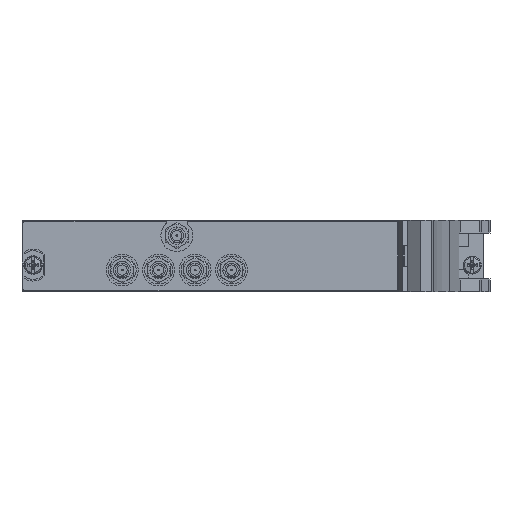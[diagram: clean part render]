
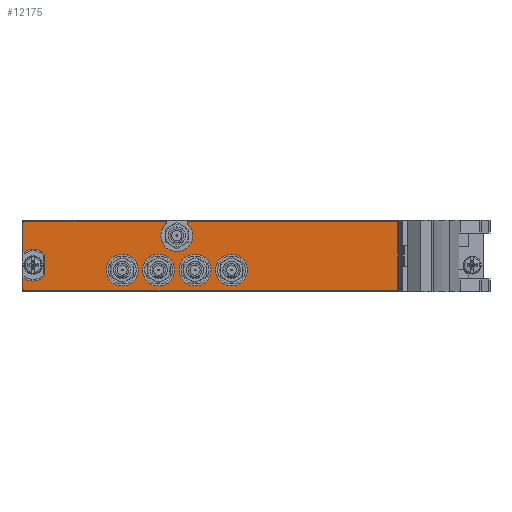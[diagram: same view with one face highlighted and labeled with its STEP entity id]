
A CAD part, left-side view. The second image highlights one B-rep face of the part: STEP entity #12175.
In plain terms, the highlighted planar face has unit normal (-1, 0, 0).
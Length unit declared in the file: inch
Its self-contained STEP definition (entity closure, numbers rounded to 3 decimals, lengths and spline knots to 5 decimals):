
#268=CARTESIAN_POINT('',(-0.215,-1.27129,0.665));
#269=DIRECTION('',(-1.,0.,0.));
#270=DIRECTION('',(0.,0.,1.));
#271=AXIS2_PLACEMENT_3D('',#268,#269,#270);
#273=DIRECTION('',(0.,1.,0.));
#274=VECTOR('',#273,2.26426);
#275=CARTESIAN_POINT('',(-0.215,-3.53555,0.685));
#276=LINE('',#275,#274);
#277=CARTESIAN_POINT('',(-0.215,-3.53555,0.665));
#278=DIRECTION('',(-1.,0.,0.));
#279=DIRECTION('',(0.,-1.,0.));
#280=AXIS2_PLACEMENT_3D('',#277,#278,#279);
#282=DIRECTION('',(0.,0.,1.));
#283=VECTOR('',#282,0.728);
#284=CARTESIAN_POINT('',(-0.215,-3.55555,-0.063));
#285=LINE('',#284,#283);
#286=CARTESIAN_POINT('',(-0.215,-3.53555,-0.063));
#287=DIRECTION('',(-1.,0.,0.));
#288=DIRECTION('',(0.,0.,-1.));
#289=AXIS2_PLACEMENT_3D('',#286,#287,#288);
#291=DIRECTION('',(0.,-1.,0.));
#292=VECTOR('',#291,4.07);
#293=CARTESIAN_POINT('',(-0.215,0.53445,-0.083));
#294=LINE('',#293,#292);
#295=CARTESIAN_POINT('',(-0.215,0.53445,-0.063));
#296=DIRECTION('',(-1.,0.,0.));
#297=DIRECTION('',(0.,1.,0.));
#298=AXIS2_PLACEMENT_3D('',#295,#296,#297);
#300=DIRECTION('',(0.,0.,-1.));
#301=VECTOR('',#300,0.12953);
#302=CARTESIAN_POINT('',(-0.215,0.55445,0.06653));
#303=LINE('',#302,#301);
#304=CARTESIAN_POINT('',(-0.215,0.44245,0.201));
#305=DIRECTION('',(1.,0.,0.));
#306=DIRECTION('',(0.,-0.737,-0.676));
#307=AXIS2_PLACEMENT_3D('',#304,#305,#306);
#309=DIRECTION('',(0.,0.,-1.));
#310=VECTOR('',#309,0.23651);
#311=CARTESIAN_POINT('',(-0.215,0.31345,0.31925));
#312=LINE('',#311,#310);
#313=CARTESIAN_POINT('',(-0.215,0.44245,0.201));
#314=DIRECTION('',(1.,0.,0.));
#315=DIRECTION('',(0.,0.64,0.768));
#316=AXIS2_PLACEMENT_3D('',#313,#314,#315);
#318=DIRECTION('',(0.,0.,-1.));
#319=VECTOR('',#318,0.32953);
#320=CARTESIAN_POINT('',(-0.215,0.55445,0.665));
#321=LINE('',#320,#319);
#322=CARTESIAN_POINT('',(-0.215,0.53445,0.665));
#323=DIRECTION('',(-1.,0.,0.));
#324=DIRECTION('',(0.,0.,1.));
#325=AXIS2_PLACEMENT_3D('',#322,#323,#324);
#327=DIRECTION('',(0.,1.,0.));
#328=VECTOR('',#327,1.53426);
#329=CARTESIAN_POINT('',(-0.215,-0.99981,0.685));
#330=LINE('',#329,#328);
#331=CARTESIAN_POINT('',(-0.215,-0.99981,0.665));
#332=DIRECTION('',(-1.,0.,0.));
#333=DIRECTION('',(0.,-0.696,-0.718));
#334=AXIS2_PLACEMENT_3D('',#331,#332,#333);
#336=CARTESIAN_POINT('',(-0.215,-0.53555,0.147));
#337=DIRECTION('',(-1.,0.,0.));
#338=DIRECTION('',(0.,0.,1.));
#339=AXIS2_PLACEMENT_3D('',#336,#337,#338);
#341=CARTESIAN_POINT('',(-0.215,-0.53555,0.147));
#342=DIRECTION('',(-1.,0.,0.));
#343=DIRECTION('',(0.,0.,-1.));
#344=AXIS2_PLACEMENT_3D('',#341,#342,#343);
#346=CARTESIAN_POINT('',(-0.215,-0.93555,0.147));
#347=DIRECTION('',(-1.,0.,0.));
#348=DIRECTION('',(0.,0.,1.));
#349=AXIS2_PLACEMENT_3D('',#346,#347,#348);
#351=CARTESIAN_POINT('',(-0.215,-0.93555,0.147));
#352=DIRECTION('',(-1.,0.,0.));
#353=DIRECTION('',(0.,0.,-1.));
#354=AXIS2_PLACEMENT_3D('',#351,#352,#353);
#356=CARTESIAN_POINT('',(-0.215,-1.33555,0.147));
#357=DIRECTION('',(-1.,0.,0.));
#358=DIRECTION('',(0.,0.,1.));
#359=AXIS2_PLACEMENT_3D('',#356,#357,#358);
#361=CARTESIAN_POINT('',(-0.215,-1.33555,0.147));
#362=DIRECTION('',(-1.,0.,0.));
#363=DIRECTION('',(0.,0.,-1.));
#364=AXIS2_PLACEMENT_3D('',#361,#362,#363);
#366=CARTESIAN_POINT('',(-0.215,-1.73555,0.147));
#367=DIRECTION('',(-1.,0.,0.));
#368=DIRECTION('',(0.,0.,1.));
#369=AXIS2_PLACEMENT_3D('',#366,#367,#368);
#371=CARTESIAN_POINT('',(-0.215,-1.73555,0.147));
#372=DIRECTION('',(-1.,0.,0.));
#373=DIRECTION('',(0.,0.,-1.));
#374=AXIS2_PLACEMENT_3D('',#371,#372,#373);
#4652=CARTESIAN_POINT('',(-0.215,-1.13555,0.525));
#4653=DIRECTION('',(1.,0.,0.));
#4654=DIRECTION('',(0.,-0.696,0.718));
#4655=AXIS2_PLACEMENT_3D('',#4652,#4653,#4654);
#10258=CARTESIAN_POINT('',(-0.215,0.53445,0.685));
#10259=CARTESIAN_POINT('',(-0.215,0.55445,0.665));
#10260=VERTEX_POINT('',#10258);
#10261=VERTEX_POINT('',#10259);
#10262=CARTESIAN_POINT('',(-0.215,0.55445,0.33547));
#10263=VERTEX_POINT('',#10262);
#10264=CARTESIAN_POINT('',(-0.215,0.31345,0.31925));
#10265=VERTEX_POINT('',#10264);
#10266=CARTESIAN_POINT('',(-0.215,0.31345,0.08275));
#10267=VERTEX_POINT('',#10266);
#10268=CARTESIAN_POINT('',(-0.215,0.55445,0.06653));
#10269=VERTEX_POINT('',#10268);
#10270=CARTESIAN_POINT('',(-0.215,0.55445,-0.063));
#10271=VERTEX_POINT('',#10270);
#10272=CARTESIAN_POINT('',(-0.215,0.53445,-0.083));
#10273=VERTEX_POINT('',#10272);
#10274=CARTESIAN_POINT('',(-0.215,-3.53555,-0.083));
#10275=VERTEX_POINT('',#10274);
#10276=CARTESIAN_POINT('',(-0.215,-3.55555,-0.063));
#10277=VERTEX_POINT('',#10276);
#10278=CARTESIAN_POINT('',(-0.215,-3.55555,0.665));
#10279=VERTEX_POINT('',#10278);
#10280=CARTESIAN_POINT('',(-0.215,-3.53555,0.685));
#10281=VERTEX_POINT('',#10280);
#10282=CARTESIAN_POINT('',(-0.215,-0.53555,0.322));
#10283=CARTESIAN_POINT('',(-0.215,-0.53555,-0.028));
#10284=VERTEX_POINT('',#10282);
#10285=VERTEX_POINT('',#10283);
#10286=CARTESIAN_POINT('',(-0.215,-0.93555,0.322));
#10287=CARTESIAN_POINT('',(-0.215,-0.93555,-0.028));
#10288=VERTEX_POINT('',#10286);
#10289=VERTEX_POINT('',#10287);
#10290=CARTESIAN_POINT('',(-0.215,-1.33555,0.322));
#10291=CARTESIAN_POINT('',(-0.215,-1.33555,-0.028));
#10292=VERTEX_POINT('',#10290);
#10293=VERTEX_POINT('',#10291);
#10294=CARTESIAN_POINT('',(-0.215,-1.73555,0.322));
#10295=CARTESIAN_POINT('',(-0.215,-1.73555,-0.028));
#10296=VERTEX_POINT('',#10294);
#10297=VERTEX_POINT('',#10295);
#10298=CARTESIAN_POINT('',(-0.215,-1.27129,0.685));
#10299=CARTESIAN_POINT('',(-0.215,-1.25737,0.65064));
#10300=VERTEX_POINT('',#10298);
#10301=VERTEX_POINT('',#10299);
#10302=CARTESIAN_POINT('',(-0.215,-1.01373,0.65064));
#10303=CARTESIAN_POINT('',(-0.215,-0.99981,0.685));
#10304=VERTEX_POINT('',#10302);
#10305=VERTEX_POINT('',#10303);
#12114=CARTESIAN_POINT('',(-0.215,0.44245,0.201));
#12115=DIRECTION('',(-1.,0.,0.));
#12116=DIRECTION('',(0.,0.,1.));
#12117=AXIS2_PLACEMENT_3D('',#12114,#12115,#12116);
#12118=PLANE('',#12117);
#12120=ORIENTED_EDGE('',*,*,#12119,.F.);
#12122=ORIENTED_EDGE('',*,*,#12121,.F.);
#12124=ORIENTED_EDGE('',*,*,#12123,.F.);
#12126=ORIENTED_EDGE('',*,*,#12125,.F.);
#12128=ORIENTED_EDGE('',*,*,#12127,.F.);
#12130=ORIENTED_EDGE('',*,*,#12129,.F.);
#12132=ORIENTED_EDGE('',*,*,#12131,.F.);
#12134=ORIENTED_EDGE('',*,*,#12133,.F.);
#12136=ORIENTED_EDGE('',*,*,#12135,.F.);
#12138=ORIENTED_EDGE('',*,*,#12137,.F.);
#12140=ORIENTED_EDGE('',*,*,#12139,.F.);
#12142=ORIENTED_EDGE('',*,*,#12141,.F.);
#12144=ORIENTED_EDGE('',*,*,#12143,.F.);
#12146=ORIENTED_EDGE('',*,*,#12145,.F.);
#12148=ORIENTED_EDGE('',*,*,#12147,.F.);
#12150=ORIENTED_EDGE('',*,*,#12149,.F.);
#12151=EDGE_LOOP('',(#12120,#12122,#12124,#12126,#12128,#12130,#12132,#12134,
#12136,#12138,#12140,#12142,#12144,#12146,#12148,#12150));
#12152=FACE_OUTER_BOUND('',#12151,.F.);
#12154=ORIENTED_EDGE('',*,*,#12153,.T.);
#12156=ORIENTED_EDGE('',*,*,#12155,.T.);
#12157=EDGE_LOOP('',(#12154,#12156));
#12158=FACE_BOUND('',#12157,.F.);
#12160=ORIENTED_EDGE('',*,*,#12159,.T.);
#12162=ORIENTED_EDGE('',*,*,#12161,.T.);
#12163=EDGE_LOOP('',(#12160,#12162));
#12164=FACE_BOUND('',#12163,.F.);
#12166=ORIENTED_EDGE('',*,*,#12165,.T.);
#12168=ORIENTED_EDGE('',*,*,#12167,.T.);
#12169=EDGE_LOOP('',(#12166,#12168));
#12170=FACE_BOUND('',#12169,.F.);
#12171=ORIENTED_EDGE('',*,*,#12094,.T.);
#12172=ORIENTED_EDGE('',*,*,#12108,.T.);
#12173=EDGE_LOOP('',(#12171,#12172));
#12174=FACE_BOUND('',#12173,.F.);
#12175=ADVANCED_FACE('',(#12152,#12158,#12164,#12170,#12174),#12118,.T.);
#272=CIRCLE('',#271,0.02);
#281=CIRCLE('',#280,0.02);
#290=CIRCLE('',#289,0.02);
#299=CIRCLE('',#298,0.02);
#308=CIRCLE('',#307,0.175);
#317=CIRCLE('',#316,0.175);
#326=CIRCLE('',#325,0.02);
#335=CIRCLE('',#334,0.02);
#340=CIRCLE('',#339,0.175);
#345=CIRCLE('',#344,0.175);
#350=CIRCLE('',#349,0.175);
#355=CIRCLE('',#354,0.175);
#360=CIRCLE('',#359,0.175);
#365=CIRCLE('',#364,0.175);
#370=CIRCLE('',#369,0.175);
#375=CIRCLE('',#374,0.175);
#4656=CIRCLE('',#4655,0.175);
#12094=EDGE_CURVE('',#10296,#10297,#370,.T.);
#12108=EDGE_CURVE('',#10297,#10296,#375,.T.);
#12119=EDGE_CURVE('',#10300,#10301,#272,.T.);
#12121=EDGE_CURVE('',#10281,#10300,#276,.T.);
#12123=EDGE_CURVE('',#10279,#10281,#281,.T.);
#12125=EDGE_CURVE('',#10277,#10279,#285,.T.);
#12127=EDGE_CURVE('',#10275,#10277,#290,.T.);
#12129=EDGE_CURVE('',#10273,#10275,#294,.T.);
#12131=EDGE_CURVE('',#10271,#10273,#299,.T.);
#12133=EDGE_CURVE('',#10269,#10271,#303,.T.);
#12135=EDGE_CURVE('',#10267,#10269,#308,.T.);
#12137=EDGE_CURVE('',#10265,#10267,#312,.T.);
#12139=EDGE_CURVE('',#10263,#10265,#317,.T.);
#12141=EDGE_CURVE('',#10261,#10263,#321,.T.);
#12143=EDGE_CURVE('',#10260,#10261,#326,.T.);
#12145=EDGE_CURVE('',#10305,#10260,#330,.T.);
#12147=EDGE_CURVE('',#10304,#10305,#335,.T.);
#12149=EDGE_CURVE('',#10301,#10304,#4656,.T.);
#12153=EDGE_CURVE('',#10284,#10285,#340,.T.);
#12155=EDGE_CURVE('',#10285,#10284,#345,.T.);
#12159=EDGE_CURVE('',#10288,#10289,#350,.T.);
#12161=EDGE_CURVE('',#10289,#10288,#355,.T.);
#12165=EDGE_CURVE('',#10292,#10293,#360,.T.);
#12167=EDGE_CURVE('',#10293,#10292,#365,.T.);
